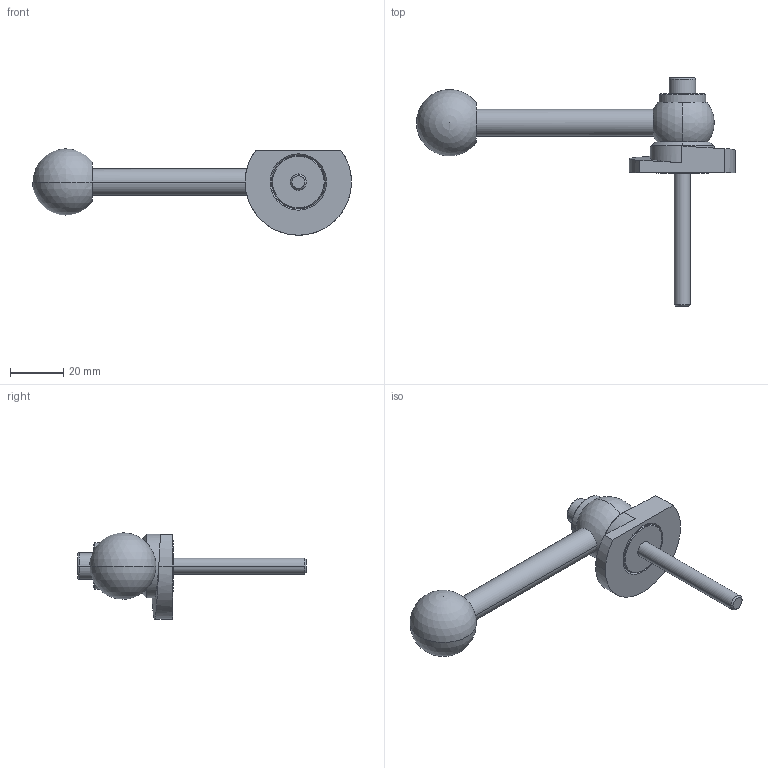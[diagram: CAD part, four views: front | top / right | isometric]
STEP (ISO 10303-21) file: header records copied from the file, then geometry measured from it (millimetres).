
FILE_DESCRIPTION (( 'STEP AP214' ), '1' );
FILE_NAME ('918.1-40-GVS-L-50.step', '2024-05-15T12:59:25', ( '' ), ( '' ), 'SwSTEP 2.0', 'SolidWorks 2022', '' );
FILE_SCHEMA (( 'AUTOMOTIVE_DESIGN' ));
Length unit declared in the file: millimetre
Products named in the file (1): 918.1-40-GVS-L-50
Bounding box: 120 x 86 x 32.5 mm (x, y, z)
Volume: 30921.5 mm3; surface area: 11681.5 mm2
Topology: 1 solids, 1 shells, 62 faces, 141 edges, 89 vertices
Faces by surface type: plane 20, cylinder 19, cone 14, sphere 4, bspline 3, torus 2
Entity records: 2003 total; most frequent: CARTESIAN_POINT 614, DIRECTION 304, ORIENTED_EDGE 262, EDGE_CURVE 131, AXIS2_PLACEMENT_3D 125, VERTEX_POINT 83, EDGE_LOOP 74, CIRCLE 65
